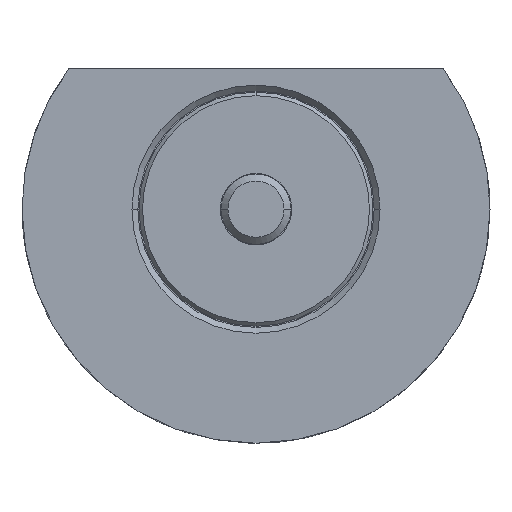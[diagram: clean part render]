
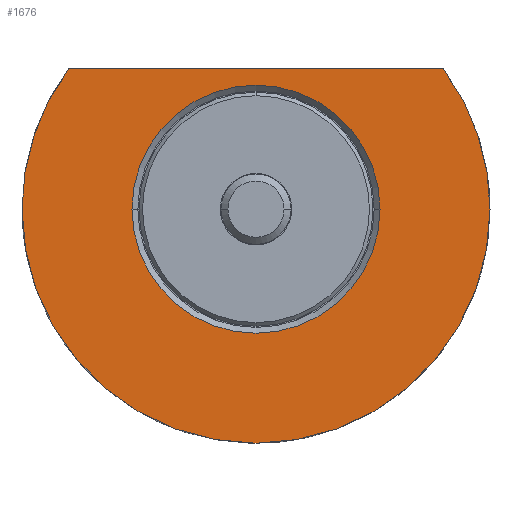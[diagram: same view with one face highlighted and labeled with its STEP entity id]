
A CAD part, front view. The second image highlights one B-rep face of the part: STEP entity #1676.
In plain terms, the highlighted planar face has unit normal (0, -1, 0).
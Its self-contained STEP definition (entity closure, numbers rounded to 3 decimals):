
#72 = CARTESIAN_POINT ( 'NONE',  ( 10.6, -10., 0. ) ) ;
#157 = ORIENTED_EDGE ( 'NONE', *, *, #776, .T. ) ;
#171 = CARTESIAN_POINT ( 'NONE',  ( 20., -10., 0. ) ) ;
#189 = ORIENTED_EDGE ( 'NONE', *, *, #321, .F. ) ;
#273 = ORIENTED_EDGE ( 'NONE', *, *, #2233, .F. ) ;
#318 = CARTESIAN_POINT ( 'NONE',  ( 0., -10., 0. ) ) ;
#321 = EDGE_CURVE ( 'NONE', #1356, #1728, #2189, .T. ) ;
#391 = CIRCLE ( 'NONE', #784, 20. ) ;
#409 = CARTESIAN_POINT ( 'NONE',  ( 0., -10., 0. ) ) ;
#439 = CARTESIAN_POINT ( 'NONE',  ( -10.6, -10., 11.999 ) ) ;
#483 = CARTESIAN_POINT ( 'NONE',  ( -10.6, -10., 0. ) ) ;
#580 = DIRECTION ( 'NONE',  ( -1., 0., 0. ) ) ;
#605 = AXIS2_PLACEMENT_3D ( 'NONE', #2357, #1092, #2565 ) ;
#638 = VERTEX_POINT ( 'NONE', #871 ) ;
#640 = ORIENTED_EDGE ( 'NONE', *, *, #739, .F. ) ;
#691 = CIRCLE ( 'NONE', #1838, 10.6 ) ;
#733 = CIRCLE ( 'NONE', #605, 20. ) ;
#739 = EDGE_CURVE ( 'NONE', #2286, #2244, #733, .T. ) ;
#776 = EDGE_CURVE ( 'NONE', #638, #1679, #778, .T. ) ;
#778 = CIRCLE ( 'NONE', #1324, 10.6 ) ;
#784 = AXIS2_PLACEMENT_3D ( 'NONE', #409, #787, #1208 ) ;
#787 = DIRECTION ( 'NONE',  ( 0., 1., 0. ) ) ;
#857 = EDGE_CURVE ( 'NONE', #1679, #638, #691, .T. ) ;
#871 = CARTESIAN_POINT ( 'NONE',  ( -10.6, -10., 0. ) ) ;
#1086 = FACE_OUTER_BOUND ( 'NONE', #1685, .T. ) ;
#1092 = DIRECTION ( 'NONE',  ( 0., 1., 0. ) ) ;
#1128 = PLANE ( 'NONE',  #1683 ) ;
#1208 = DIRECTION ( 'NONE',  ( -1., 0., 0. ) ) ;
#1324 = AXIS2_PLACEMENT_3D ( 'NONE', #318, #1503, #2329 ) ;
#1330 = VECTOR ( 'NONE', #2102, 1000. ) ;
#1356 = VERTEX_POINT ( 'NONE', #1563 ) ;
#1503 = DIRECTION ( 'NONE',  ( 0., 1., 0. ) ) ;
#1563 = CARTESIAN_POINT ( 'NONE',  ( -20., -10., 0. ) ) ;
#1581 = AXIS2_PLACEMENT_3D ( 'NONE', #1745, #2358, #2379 ) ;
#1676 = ADVANCED_FACE ( 'NONE', ( #2321, #1086 ), #1128, .T. ) ;
#1679 = VERTEX_POINT ( 'NONE', #72 ) ;
#1683 = AXIS2_PLACEMENT_3D ( 'NONE', #483, #2336, #1908 ) ;
#1685 = EDGE_LOOP ( 'NONE', ( #640, #2370, #189, #273 ) ) ;
#1728 = VERTEX_POINT ( 'NONE', #2546 ) ;
#1745 = CARTESIAN_POINT ( 'NONE',  ( 0., -10., 0. ) ) ;
#1762 = ORIENTED_EDGE ( 'NONE', *, *, #857, .T. ) ;
#1818 = CARTESIAN_POINT ( 'NONE',  ( 16.001, -10., 11.999 ) ) ;
#1838 = AXIS2_PLACEMENT_3D ( 'NONE', #2179, #2387, #580 ) ;
#1864 = LINE ( 'NONE', #439, #1330 ) ;
#1908 = DIRECTION ( 'NONE',  ( 1., 0., 0. ) ) ;
#2000 = EDGE_CURVE ( 'NONE', #2286, #1728, #1864, .T. ) ;
#2017 = EDGE_LOOP ( 'NONE', ( #1762, #157 ) ) ;
#2102 = DIRECTION ( 'NONE',  ( -1., 0., 0. ) ) ;
#2179 = CARTESIAN_POINT ( 'NONE',  ( 0., -10., 0. ) ) ;
#2189 = CIRCLE ( 'NONE', #1581, 20. ) ;
#2233 = EDGE_CURVE ( 'NONE', #2244, #1356, #391, .T. ) ;
#2244 = VERTEX_POINT ( 'NONE', #171 ) ;
#2286 = VERTEX_POINT ( 'NONE', #1818 ) ;
#2321 = FACE_BOUND ( 'NONE', #2017, .T. ) ;
#2329 = DIRECTION ( 'NONE',  ( -1., 0., 0. ) ) ;
#2336 = DIRECTION ( 'NONE',  ( 0., -1., 0. ) ) ;
#2357 = CARTESIAN_POINT ( 'NONE',  ( 0., -10., 0. ) ) ;
#2358 = DIRECTION ( 'NONE',  ( 0., 1., 0. ) ) ;
#2370 = ORIENTED_EDGE ( 'NONE', *, *, #2000, .T. ) ;
#2379 = DIRECTION ( 'NONE',  ( -1., 0., 0. ) ) ;
#2387 = DIRECTION ( 'NONE',  ( 0., 1., 0. ) ) ;
#2546 = CARTESIAN_POINT ( 'NONE',  ( -16.001, -10., 11.999 ) ) ;
#2565 = DIRECTION ( 'NONE',  ( -1., 0., 0. ) ) ;
